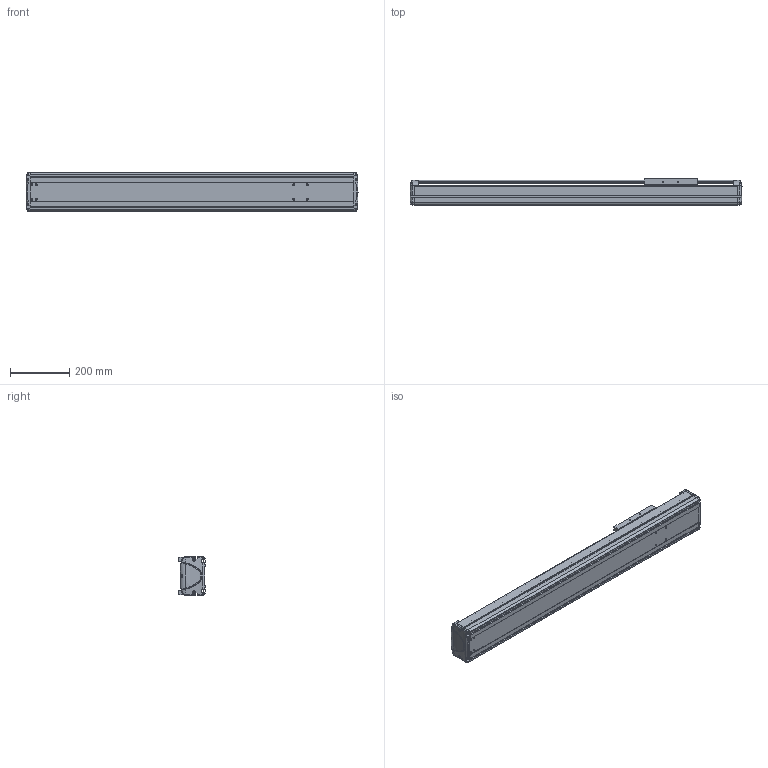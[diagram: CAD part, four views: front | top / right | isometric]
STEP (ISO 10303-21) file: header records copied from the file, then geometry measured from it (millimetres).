
FILE_DESCRIPTION((''),'2;1');
FILE_NAME('BE30E-ST-L_B-75_IGS_PRT','2017-06-17T',(' '),(''),'PRO/ENGINEER BY PARAMETRIC TECHNOLOGY CORPORATION, 2015030','PRO/ENGINEER BY PARAMETRIC TECHNOLOGY CORPORATION, 2015030','');
FILE_SCHEMA(('CONFIG_CONTROL_DESIGN'));
Length unit declared in the file: millimetre
Products named in the file (1): BE30E-ST-L_B-75_IGS_PRT
Bounding box: 1125 x 89.8 x 130 mm (x, y, z)
Volume: 3497273 mm3; surface area: 1373482.1 mm2
Topology: 3 solids, 88 shells, 1372 faces, 3697 edges, 2421 vertices
Faces by surface type: cylinder 627, plane 594, bspline 55, torus 42, cone 30, sphere 24
Entity records: 46188 total; most frequent: CARTESIAN_POINT 11594, DIRECTION 7138, ORIENTED_EDGE 7016, EDGE_CURVE 3677, AXIS2_PLACEMENT_3D 2586, VERTEX_POINT 2421, VECTOR 1966, LINE 1966
